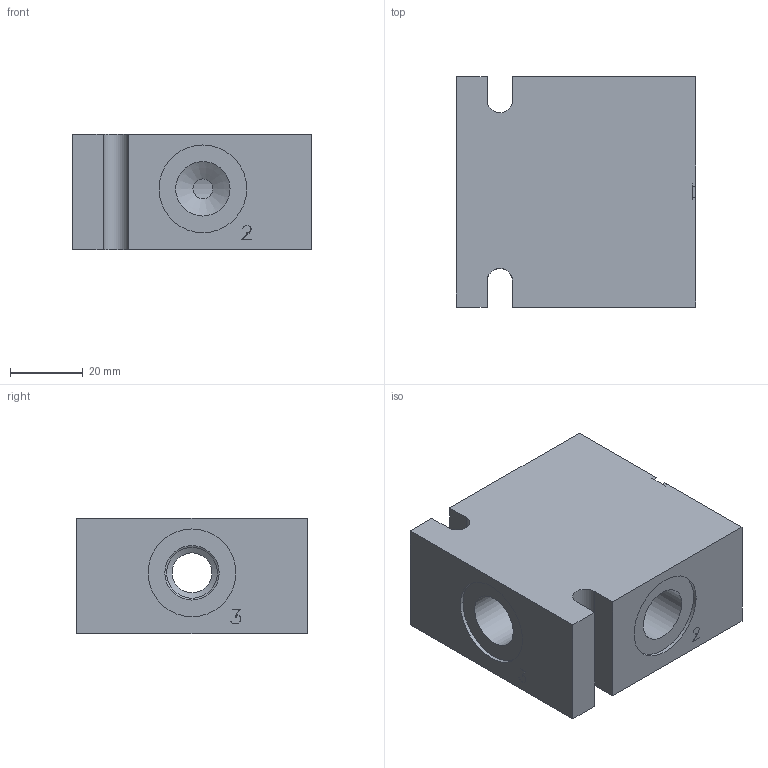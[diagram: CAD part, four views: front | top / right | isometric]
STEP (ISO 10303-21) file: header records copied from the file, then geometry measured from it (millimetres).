
FILE_DESCRIPTION( ( 'Unknown' ), '1' );
FILE_NAME( 'G:/Graphic Design/Graphic Design 2/Data Sheets/Delta Bodies/DRAWINGS/B-DPPB3.stp', 'Unknown', ( 'Unknown' ), ( 'Unknown' ), 'PSStep 16.0.42', 'Unknown', ' ' );
FILE_SCHEMA( ( 'AUTOMOTIVE_DESIGN { 1 0 10303 214 1 1 1 1 }' ) );
Length unit declared in the file: millimetre
Products named in the file (2): Assem1; B-DPPB3
Assembly tree (1 placements, depth 2):
  Assem1
    B-DPPB3
Bounding box: 66 x 63.5 x 31.75 mm (x, y, z)
Surface area: 22134.5 mm2 (no closed solid volume)
Topology: 0 solids, 123 shells, 123 faces, 618 edges, 589 vertices
Faces by surface type: plane 90, cylinder 24, cone 9
Full cylindrical faces by diameter (mm): 0.2 x3, 5.5 x1, 10.5 x1, 11 x1, 14 x1, 14.326 x1, 15 x6, 15.926 x2, 17.33 x1, 24.2 x3
Entity records: 6744 total; most frequent: CARTESIAN_POINT 1803, DIRECTION 632, ORIENTED_EDGE 572, EDGE_CURVE 572, VERTEX_POINT 572, B_SPLINE_CURVE_WITH_KNOTS 278, AXIS2_PLACEMENT_3D 213, LINE 206
